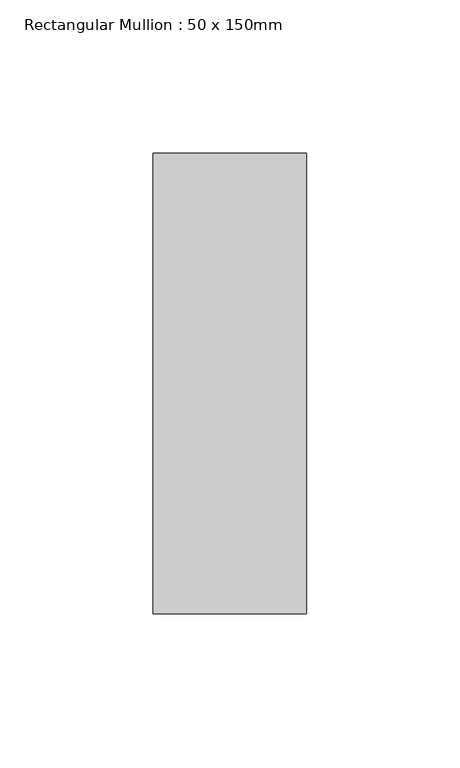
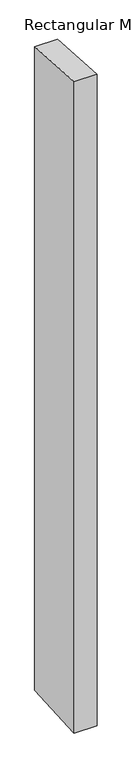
"""IFC4 building model written with IfcOpenShell, lengths in millimetres: member geometry, Rectangular Mullion : 50 x 150mm."""

import ifcopenshell
import ifcopenshell.guid

model = None  # the IFC model being written
_history = None  # IfcOwnerHistory: only IFC2X3 demands one
_inside = {}  # id of a spatial element -> (the spatial element, [elements in it])
_under = {}  # id of a project, library or spatial element -> (it, [spatial elements below it])
_declared = {}  # id of a project -> (the project, [libraries it declares])
_typed = {}  # id of a type object -> (the type object, [elements of that type])
_made_of = {}  # id of a material, layer set ... -> (it, [elements and type objects made of it])


def new_model(schema):
    """Start an empty IFC model of exactly this schema.

    Asked for "IFC4X3", IfcOpenShell would pick the latest addendum, in which some entities
    have other attributes; the version numbers below select the first issue.
    IFC2X3 requires an IfcOwnerHistory on every rooted entity: one is made here for all.
    """
    global model, _history
    if schema == "IFC4X3":
        model = ifcopenshell.file(schema_version=(4, 3, 0, 0))
    else:
        model = ifcopenshell.file(schema=schema)
    _inside.clear()
    _under.clear()
    _declared.clear()
    _typed.clear()
    _made_of.clear()
    _history = None
    if model.schema == "IFC2X3":
        org = make("IfcOrganization", Name="unknown")
        user = make(
            "IfcPersonAndOrganization",
            ThePerson=make("IfcPerson", FamilyName="unknown"),
            TheOrganization=org,
        )
        app = make(
            "IfcApplication",
            ApplicationDeveloper=org,
            Version="unknown",
            ApplicationFullName="unknown",
            ApplicationIdentifier="unknown",
        )
        _history = make(
            "IfcOwnerHistory",
            OwningUser=user,
            OwningApplication=app,
            ChangeAction="ADDED",
            CreationDate=0,
        )
    return model


def make(cls, **values):
    """One entity of the class cls with the attributes given. An attribute that is None is left unset."""
    return model.create_entity(
        cls, **{name: value for name, value in values.items() if value is not None}
    )


def rooted(cls, **values):
    """An entity with a GlobalId (a new one), such as an element, a storey or a relation."""
    return make(cls, GlobalId=ifcopenshell.guid.new(), OwnerHistory=_history, **values)


def si_unit(unit_type, name, prefix=None):
    """IfcSIUnit, for example si_unit("LENGTHUNIT", "METRE", prefix="MILLI")."""
    return make("IfcSIUnit", UnitType=unit_type, Prefix=prefix, Name=name)


def assignment(units):
    """IfcUnitAssignment: the units of a project."""
    return None if units is None else make("IfcUnitAssignment", Units=units)


def point(xyz):
    """IfcCartesianPoint."""
    return None if xyz is None else make("IfcCartesianPoint", Coordinates=xyz)


def direction(xyz):
    """IfcDirection."""
    return None if xyz is None else make("IfcDirection", DirectionRatios=xyz)


def frame(location, z_axis=None, x_axis=None):
    """IfcAxis2Placement3D, a coordinate frame: its origin and axes. An axis left out is left unset."""
    return make(
        "IfcAxis2Placement3D",
        Location=point(location),
        Axis=direction(z_axis),
        RefDirection=direction(x_axis),
    )


def origin():
    """The frame at (0, 0, 0) with its axes left unset."""
    return frame((0.0, 0.0, 0.0))


def place(relative_to, where):
    """IfcLocalPlacement: puts the frame where relative to a parent placement (None: the world)."""
    return make(
        "IfcLocalPlacement", PlacementRelTo=relative_to, RelativePlacement=where
    )


def context(
    kind, dimensions, precision=None, world=None, true_north=None, identifier=None
):
    """IfcGeometricRepresentationContext, for example the 3D "Model" context."""
    return make(
        "IfcGeometricRepresentationContext",
        ContextIdentifier=identifier,
        ContextType=kind,
        CoordinateSpaceDimension=dimensions,
        Precision=precision,
        WorldCoordinateSystem=world,
        TrueNorth=true_north,
    )


def project(units=None, contexts=None):
    """IfcProject with its units and contexts."""
    return rooted(
        "IfcProject",
        Name="project",
        RepresentationContexts=contexts,
        UnitsInContext=assignment(units),
    )


def spatial(cls, under=None, at=None, **own):
    """A site, building, storey or space (cls), placed at a placement, below another one or the project."""
    s = rooted(cls, ObjectPlacement=at, **own)
    if under is not None:
        _under.setdefault(under.id(), (under, []))[1].append(s)
    return s


def polyline(points):
    """IfcPolyline through the points."""
    return make("IfcPolyline", Points=[point(p) for p in points])


def outline(outer, holes=None, kind="AREA"):
    """IfcArbitraryClosedProfileDef: a profile drawn as a closed curve; with holes, ...WithVoids."""
    if holes is None:
        return make("IfcArbitraryClosedProfileDef", ProfileType=kind, OuterCurve=outer)
    return make(
        "IfcArbitraryProfileDefWithVoids",
        ProfileType=kind,
        OuterCurve=outer,
        InnerCurves=holes,
    )


def extrude(swept, where, along, depth):
    """IfcExtrudedAreaSolid: the profile swept, set in the frame where, extruded along a direction by depth."""
    return make(
        "IfcExtrudedAreaSolid",
        SweptArea=swept,
        Position=where,
        ExtrudedDirection=direction(along),
        Depth=depth,
    )


def shape(context_of_items, identifier, shape_type, items):
    """IfcShapeRepresentation: the items that make up one representation, for example the "Body"."""
    return make(
        "IfcShapeRepresentation",
        ContextOfItems=context_of_items,
        RepresentationIdentifier=identifier,
        RepresentationType=shape_type,
        Items=items,
    )


def source(mapping_origin, context_of_items, identifier, shape_type, items):
    """IfcRepresentationMap: a shape defined once, which mapped items show again and again."""
    return make(
        "IfcRepresentationMap",
        MappingOrigin=mapping_origin,
        MappedRepresentation=shape(context_of_items, identifier, shape_type, items),
    )


def transform(
    local_origin,
    x_axis=None,
    y_axis=None,
    z_axis=None,
    scale=None,
    scale2=None,
    scale3=None,
    uniform=True,
):
    """IfcCartesianTransformationOperator3D, or its non-uniform kind. x_axis, y_axis, z_axis: its Axis1, 2, 3."""
    if uniform:
        return make(
            "IfcCartesianTransformationOperator3D",
            Axis1=direction(x_axis),
            Axis2=direction(y_axis),
            LocalOrigin=point(local_origin),
            Scale=scale,
            Axis3=direction(z_axis),
        )
    return make(
        "IfcCartesianTransformationOperator3DnonUniform",
        Axis1=direction(x_axis),
        Axis2=direction(y_axis),
        LocalOrigin=point(local_origin),
        Scale=scale,
        Axis3=direction(z_axis),
        Scale2=scale2,
        Scale3=scale3,
    )


def mapped(mapping_source, mapping_target):
    """IfcMappedItem: shows the shape of a source again, moved by a transform."""
    return make(
        "IfcMappedItem", MappingSource=mapping_source, MappingTarget=mapping_target
    )


def made_of(thing, what):
    """Note that an element or type object is made of a material, layer set ...; save() writes the relation."""
    if what is not None:
        _made_of.setdefault(what.id(), (what, []))[1].append(thing)
    return thing


def element(
    cls,
    number,
    at=None,
    inside=None,
    cuts=None,
    type_object=None,
    material=None,
    context=None,
    identifier="Body",
    shape_type=None,
    held_by="IfcProductDefinitionShape",
    body=None,
    shapes=None,
    **own,
):
    """One element of the class cls, such as IfcWall. Its Tag is "e" and its number.

    at: its placement. inside: the storey or other place that contains it. cuts: it is an
    opening in that element (IfcRelVoidsElement). A single representation is given by context,
    identifier, shape_type and body (its items); several are given by shapes. held_by: the class
    of the entity that holds the representations. save() writes the other relations.
    """
    e = rooted(cls, Tag="e%d" % number, ObjectPlacement=at, **own)
    if body is not None:
        shapes = [shape(context, identifier, shape_type, body)]
    if shapes is not None:
        e.Representation = make(held_by, Representations=shapes)
    if inside is not None:
        _inside.setdefault(inside.id(), (inside, []))[1].append(e)
    if cuts is not None:
        rooted(
            "IfcRelVoidsElement", RelatingBuildingElement=cuts, RelatedOpeningElement=e
        )
    if type_object is not None:
        _typed.setdefault(type_object.id(), (type_object, []))[1].append(e)
    return made_of(e, material)


def aggregate(whole, parts):
    """IfcRelAggregates: a whole, such as a stair, and the parts it consists of."""
    return rooted("IfcRelAggregates", RelatingObject=whole, RelatedObjects=parts)


def save(model, path):
    """Write the relations noted so far, then the file.

    IfcRelAggregates (storeys below a building ...), IfcRelContainedInSpatialStructure (elements
    in a storey), IfcRelDefinesByType, IfcRelAssociatesMaterial and IfcRelDeclares: one each for
    every whole, place, type object, material and project.
    """
    for whole, parts in _under.values():
        aggregate(whole, parts)
    for where, things in _inside.values():
        rooted(
            "IfcRelContainedInSpatialStructure",
            RelatedElements=things,
            RelatingStructure=where,
        )
    for kind, things in _typed.values():
        rooted("IfcRelDefinesByType", RelatedObjects=things, RelatingType=kind)
    for what, things in _made_of.values():
        rooted("IfcRelAssociatesMaterial", RelatedObjects=things, RelatingMaterial=what)
    for by, libraries in _declared.values():
        rooted("IfcRelDeclares", RelatingContext=by, RelatedDefinitions=libraries)
    model.write(path)


def rectangular_mullion_50_x_150mm_eba0d472(model_context):
    return source(origin(), model_context, "Body", "SweptSolid", [
        extrude(outline(polyline([(-75.0, 4.7474937), (75.0, -4.7474937), (75.0, -1495.8949685), (-75.0, -1504.1050315), (-75.0, 4.7474937)])), frame((-25.0, 0.0, 0.0), z_axis=(1.0, 0.0, 0.0), x_axis=(0.0, 1.0, 0.0)), (0.0, 0.0, 1.0), 50.0),
    ])


if __name__ == "__main__":
    model = new_model("IFC4")
    model_context = context("Model", 3, world=origin())
    ifc_project = project(units=[si_unit("LENGTHUNIT", "METRE", prefix="MILLI")], contexts=[model_context])
    site = spatial("IfcSite", under=ifc_project)
    building = spatial("IfcBuilding", under=site)
    placement = place(None, origin())
    rectangular_mullion_50_x_150mm_shape = rectangular_mullion_50_x_150mm_eba0d472(model_context)
    element("IfcMember", 1, ObjectType="Rectangular Mullion : 50 x 150mm", at=placement, inside=building, context=model_context, shape_type="MappedRepresentation", body=[
        mapped(rectangular_mullion_50_x_150mm_shape, transform((0.0, 0.0, 0.0), x_axis=(1.0, 0.0, 0.0), y_axis=(0.0, 1.0, 0.0), z_axis=(0.0, 0.0, 1.0))),
    ])
    save(model, "model.ifc")
